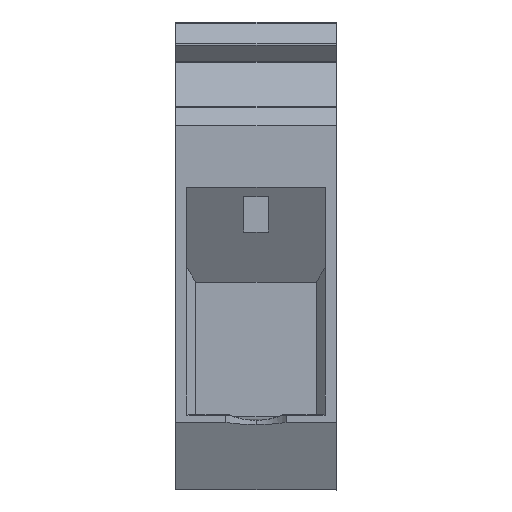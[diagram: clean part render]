
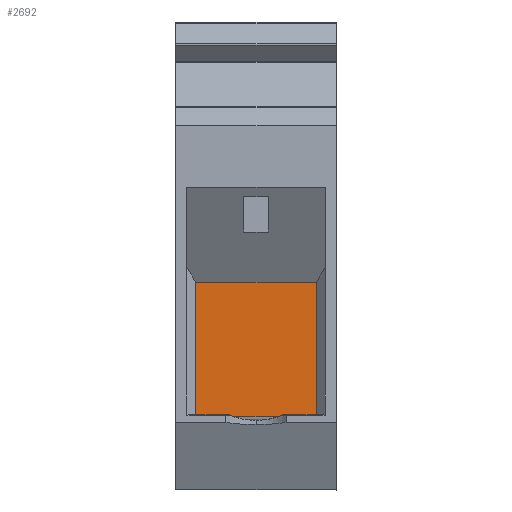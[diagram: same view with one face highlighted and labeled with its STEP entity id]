
A CAD part, left-side view. The second image highlights one B-rep face of the part: STEP entity #2692.
In plain terms, the highlighted planar face has unit normal (-1, 0, 0).
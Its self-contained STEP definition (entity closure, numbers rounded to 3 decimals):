
#786=PLANE('',#46286);
#2692=ADVANCED_FACE('',(#6393),#786,.T.);
#6393=FACE_OUTER_BOUND('',#9048,.T.);
#9048=EDGE_LOOP('',(#15530,#15531,#15532,#15533,#15534,#15535,#15536,#15537));
#11982=CIRCLE('',#46284,7.);
#11983=CIRCLE('',#46285,7.);
#15530=ORIENTED_EDGE('',*,*,#32623,.T.);
#15531=ORIENTED_EDGE('',*,*,#32624,.T.);
#15532=ORIENTED_EDGE('',*,*,#32625,.F.);
#15533=ORIENTED_EDGE('',*,*,#32626,.T.);
#15534=ORIENTED_EDGE('',*,*,#32199,.T.);
#15535=ORIENTED_EDGE('',*,*,#32622,.F.);
#15536=ORIENTED_EDGE('',*,*,#32627,.F.);
#15537=ORIENTED_EDGE('',*,*,#32628,.T.);
#28004=VERTEX_POINT('',#66357);
#28009=VERTEX_POINT('',#66366);
#28298=VERTEX_POINT('',#67240);
#28299=VERTEX_POINT('',#67244);
#28300=VERTEX_POINT('',#67245);
#28301=VERTEX_POINT('',#67247);
#28302=VERTEX_POINT('',#67249);
#28303=VERTEX_POINT('',#67252);
#32199=EDGE_CURVE('',#28004,#28009,#38582,.T.);
#32622=EDGE_CURVE('',#28298,#28009,#38834,.T.);
#32623=EDGE_CURVE('',#28299,#28300,#38835,.T.);
#32624=EDGE_CURVE('',#28300,#28301,#11982,.T.);
#32625=EDGE_CURVE('',#28302,#28301,#38836,.T.);
#32626=EDGE_CURVE('',#28302,#28004,#38837,.T.);
#32627=EDGE_CURVE('',#28303,#28298,#38838,.T.);
#32628=EDGE_CURVE('',#28303,#28299,#11983,.T.);
#38582=LINE('',#66367,#42310);
#38834=LINE('',#67241,#42562);
#38835=LINE('',#67243,#42563);
#38836=LINE('',#67248,#42564);
#38837=LINE('',#67250,#42565);
#38838=LINE('',#67251,#42566);
#42310=VECTOR('',#51992,1.);
#42562=VECTOR('',#52814,1.);
#42563=VECTOR('',#52817,1.);
#42564=VECTOR('',#52820,1.);
#42565=VECTOR('',#52821,1.);
#42566=VECTOR('',#52822,1.);
#46284=AXIS2_PLACEMENT_3D('',#67246,#52818,#52819);
#46285=AXIS2_PLACEMENT_3D('',#67253,#52823,#52824);
#46286=AXIS2_PLACEMENT_3D('',#67254,#52825,#52826);
#51992=DIRECTION('',(0.,1.,0.));
#52814=DIRECTION('',(0.,0.,1.));
#52817=DIRECTION('',(0.,-1.,0.));
#52818=DIRECTION('',(-1.,0.,0.));
#52819=DIRECTION('',(0.,-0.32,-0.947));
#52820=DIRECTION('',(0.,1.,0.));
#52821=DIRECTION('',(0.,0.,1.));
#52822=DIRECTION('',(0.,1.,0.));
#52823=DIRECTION('',(-1.,0.,0.));
#52824=DIRECTION('',(0.,0.401,-0.916));
#52825=DIRECTION('',(-1.,0.,0.));
#52826=DIRECTION('',(0.,0.,-1.));
#66357=CARTESIAN_POINT('',(6.68,2.304,-26.697));
#66366=CARTESIAN_POINT('',(6.68,14.504,-26.697));
#66367=CARTESIAN_POINT('',(6.68,2.304,-26.697));
#67240=CARTESIAN_POINT('',(6.68,14.504,-40.104));
#67241=CARTESIAN_POINT('',(6.68,14.504,-40.104));
#67243=CARTESIAN_POINT('',(6.68,10.647,-40.322));
#67244=CARTESIAN_POINT('',(6.68,10.647,-40.322));
#67245=CARTESIAN_POINT('',(6.68,6.162,-40.322));
#67246=CARTESIAN_POINT('',(6.68,8.404,-33.691));
#67247=CARTESIAN_POINT('',(6.68,5.599,-40.104));
#67248=CARTESIAN_POINT('',(6.68,2.304,-40.104));
#67249=CARTESIAN_POINT('',(6.68,2.304,-40.104));
#67250=CARTESIAN_POINT('',(6.68,2.304,-40.104));
#67251=CARTESIAN_POINT('',(6.68,11.21,-40.104));
#67252=CARTESIAN_POINT('',(6.68,11.21,-40.104));
#67253=CARTESIAN_POINT('',(6.68,8.404,-33.691));
#67254=CARTESIAN_POINT('',(6.68,16.554,-40.322));
